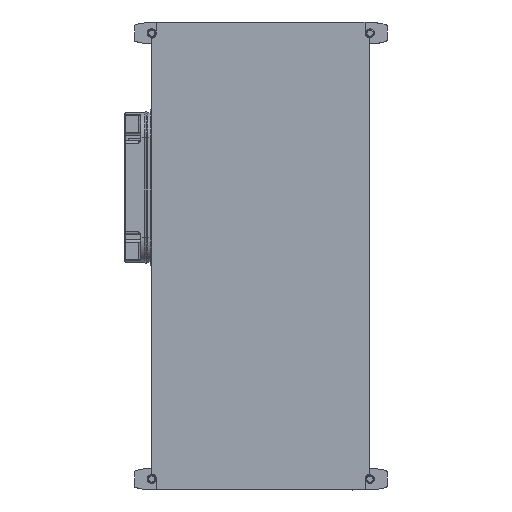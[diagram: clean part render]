
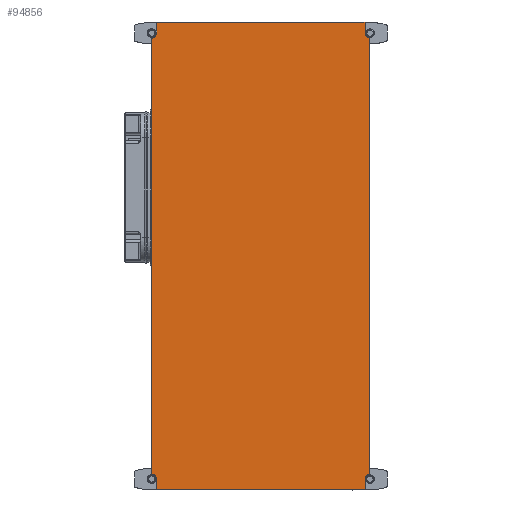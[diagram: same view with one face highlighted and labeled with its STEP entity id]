
A CAD part, front view. The second image highlights one B-rep face of the part: STEP entity #94856.
In plain terms, the highlighted planar face has unit normal (0, -1, 0).
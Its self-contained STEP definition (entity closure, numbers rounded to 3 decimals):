
#2545 = CIRCLE ( 'NONE', #131803, 1.6 ) ;
#5871 = EDGE_CURVE ( 'NONE', #168819, #114018, #17743, .T. ) ;
#6618 = CARTESIAN_POINT ( 'NONE',  ( -35., -14.1, 71.5 ) ) ;
#7914 = VERTEX_POINT ( 'NONE', #204844 ) ;
#9610 = ORIENTED_EDGE ( 'NONE', *, *, #5871, .T. ) ;
#9773 = CARTESIAN_POINT ( 'NONE',  ( -33.4, -14.1, -75. ) ) ;
#9861 = CARTESIAN_POINT ( 'NONE',  ( 0., -14.1, 0. ) ) ;
#14695 = CARTESIAN_POINT ( 'NONE',  ( -35., -14.1, 69.9 ) ) ;
#14861 = VERTEX_POINT ( 'NONE', #232908 ) ;
#17743 = LINE ( 'NONE', #46378, #218563 ) ;
#24274 = ORIENTED_EDGE ( 'NONE', *, *, #55468, .F. ) ;
#26111 = DIRECTION ( 'NONE',  ( 0., 0., -1. ) ) ;
#26144 = ORIENTED_EDGE ( 'NONE', *, *, #67791, .F. ) ;
#26189 = VECTOR ( 'NONE', #81049, 1000. ) ;
#29390 = DIRECTION ( 'NONE',  ( 0., 0., -1. ) ) ;
#32397 = LINE ( 'NONE', #62430, #26189 ) ;
#33100 = CARTESIAN_POINT ( 'NONE',  ( 33.4, -14.1, 71.5 ) ) ;
#38405 = EDGE_CURVE ( 'NONE', #236429, #97996, #2545, .T. ) ;
#40124 = EDGE_CURVE ( 'NONE', #114865, #236429, #89949, .T. ) ;
#43440 = EDGE_LOOP ( 'NONE', ( #180875, #119392, #88386, #113891, #154037, #76017, #222411, #26144, #9610, #197074, #24274, #83307 ) ) ;
#43470 = CARTESIAN_POINT ( 'NONE',  ( -33.4, -14.1, 75. ) ) ;
#46378 = CARTESIAN_POINT ( 'NONE',  ( -35., -14.1, 75. ) ) ;
#48196 = PLANE ( 'NONE',  #198457 ) ;
#53482 = CARTESIAN_POINT ( 'NONE',  ( 35., -14.1, 69.9 ) ) ;
#55468 = EDGE_CURVE ( 'NONE', #213233, #181031, #107900, .T. ) ;
#56161 = VECTOR ( 'NONE', #236203, 1000. ) ;
#60625 = CARTESIAN_POINT ( 'NONE',  ( -35., -14.1, 75. ) ) ;
#60873 = CARTESIAN_POINT ( 'NONE',  ( 35., -14.1, 71.5 ) ) ;
#62430 = CARTESIAN_POINT ( 'NONE',  ( -35., -14.1, -75. ) ) ;
#63154 = DIRECTION ( 'NONE',  ( 0., -1., 0. ) ) ;
#65908 = DIRECTION ( 'NONE',  ( 0., 0., -1. ) ) ;
#67791 = EDGE_CURVE ( 'NONE', #168819, #121066, #157484, .T. ) ;
#76017 = ORIENTED_EDGE ( 'NONE', *, *, #124410, .F. ) ;
#80069 = DIRECTION ( 'NONE',  ( 1., 0., 0. ) ) ;
#80321 = DIRECTION ( 'NONE',  ( 0., 0., -1. ) ) ;
#81049 = DIRECTION ( 'NONE',  ( 1., 0., 0. ) ) ;
#83307 = ORIENTED_EDGE ( 'NONE', *, *, #175264, .T. ) ;
#84003 = VERTEX_POINT ( 'NONE', #43470 ) ;
#88386 = ORIENTED_EDGE ( 'NONE', *, *, #40124, .F. ) ;
#89949 = LINE ( 'NONE', #246407, #135585 ) ;
#94856 = ADVANCED_FACE ( 'NONE', ( #157186 ), #48196, .T. ) ;
#96414 = CARTESIAN_POINT ( 'NONE',  ( 35., -14.1, -71.5 ) ) ;
#97996 = VERTEX_POINT ( 'NONE', #141174 ) ;
#104703 = AXIS2_PLACEMENT_3D ( 'NONE', #6618, #142734, #26111 ) ;
#107900 = LINE ( 'NONE', #196990, #56161 ) ;
#110178 = CARTESIAN_POINT ( 'NONE',  ( -33.4, -14.1, -71.5 ) ) ;
#113822 = EDGE_CURVE ( 'NONE', #155819, #14861, #222714, .T. ) ;
#113891 = ORIENTED_EDGE ( 'NONE', *, *, #245607, .F. ) ;
#114018 = VERTEX_POINT ( 'NONE', #118858 ) ;
#114865 = VERTEX_POINT ( 'NONE', #53482 ) ;
#116052 = DIRECTION ( 'NONE',  ( 0., 0., -1. ) ) ;
#116841 = CARTESIAN_POINT ( 'NONE',  ( 35., -14.1, -69.9 ) ) ;
#118858 = CARTESIAN_POINT ( 'NONE',  ( -35., -14.1, -69.9 ) ) ;
#119375 = VECTOR ( 'NONE', #169859, 1000. ) ;
#119392 = ORIENTED_EDGE ( 'NONE', *, *, #38405, .F. ) ;
#120615 = CARTESIAN_POINT ( 'NONE',  ( 33.4, -14.1, 75. ) ) ;
#121066 = VERTEX_POINT ( 'NONE', #185405 ) ;
#124248 = VECTOR ( 'NONE', #80069, 1000. ) ;
#124410 = EDGE_CURVE ( 'NONE', #84003, #155819, #227589, .T. ) ;
#125140 = VECTOR ( 'NONE', #141034, 1000. ) ;
#128230 = AXIS2_PLACEMENT_3D ( 'NONE', #179428, #63154, #198958 ) ;
#129073 = DIRECTION ( 'NONE',  ( 0., 0., 1. ) ) ;
#129973 = EDGE_CURVE ( 'NONE', #97996, #7914, #176663, .T. ) ;
#131803 = AXIS2_PLACEMENT_3D ( 'NONE', #96414, #232397, #116052 ) ;
#135585 = VECTOR ( 'NONE', #207306, 1000. ) ;
#141034 = DIRECTION ( 'NONE',  ( 0., 0., -1. ) ) ;
#141174 = CARTESIAN_POINT ( 'NONE',  ( 33.4, -14.1, -71.5 ) ) ;
#142734 = DIRECTION ( 'NONE',  ( 0., -1., 0. ) ) ;
#145986 = DIRECTION ( 'NONE',  ( 0., -1., 0. ) ) ;
#151368 = VECTOR ( 'NONE', #129073, 1000. ) ;
#154037 = ORIENTED_EDGE ( 'NONE', *, *, #113822, .F. ) ;
#155819 = VERTEX_POINT ( 'NONE', #120615 ) ;
#157186 = FACE_OUTER_BOUND ( 'NONE', #43440, .T. ) ;
#157484 = CIRCLE ( 'NONE', #104703, 1.6 ) ;
#166160 = AXIS2_PLACEMENT_3D ( 'NONE', #60873, #196744, #80321 ) ;
#168819 = VERTEX_POINT ( 'NONE', #14695 ) ;
#169859 = DIRECTION ( 'NONE',  ( 0., 0., -1. ) ) ;
#175264 = EDGE_CURVE ( 'NONE', #213233, #7914, #32397, .T. ) ;
#176663 = LINE ( 'NONE', #237840, #125140 ) ;
#179428 = CARTESIAN_POINT ( 'NONE',  ( -35., -14.1, -71.5 ) ) ;
#180875 = ORIENTED_EDGE ( 'NONE', *, *, #129973, .F. ) ;
#181031 = VERTEX_POINT ( 'NONE', #110178 ) ;
#185405 = CARTESIAN_POINT ( 'NONE',  ( -33.4, -14.1, 71.5 ) ) ;
#196054 = EDGE_CURVE ( 'NONE', #121066, #84003, #202929, .T. ) ;
#196403 = CIRCLE ( 'NONE', #128230, 1.6 ) ;
#196744 = DIRECTION ( 'NONE',  ( 0., -1., 0. ) ) ;
#196791 = EDGE_CURVE ( 'NONE', #181031, #114018, #196403, .T. ) ;
#196990 = CARTESIAN_POINT ( 'NONE',  ( -33.4, -14.1, -71.5 ) ) ;
#197074 = ORIENTED_EDGE ( 'NONE', *, *, #196791, .F. ) ;
#198457 = AXIS2_PLACEMENT_3D ( 'NONE', #9861, #145986, #29390 ) ;
#198958 = DIRECTION ( 'NONE',  ( 0., 0., -1. ) ) ;
#202929 = LINE ( 'NONE', #206316, #151368 ) ;
#204844 = CARTESIAN_POINT ( 'NONE',  ( 33.4, -14.1, -75. ) ) ;
#206316 = CARTESIAN_POINT ( 'NONE',  ( -33.4, -14.1, 71.5 ) ) ;
#207306 = DIRECTION ( 'NONE',  ( 0., 0., -1. ) ) ;
#213233 = VERTEX_POINT ( 'NONE', #9773 ) ;
#213792 = CIRCLE ( 'NONE', #166160, 1.6 ) ;
#218563 = VECTOR ( 'NONE', #65908, 1000. ) ;
#222411 = ORIENTED_EDGE ( 'NONE', *, *, #196054, .F. ) ;
#222714 = LINE ( 'NONE', #33100, #119375 ) ;
#227589 = LINE ( 'NONE', #60625, #124248 ) ;
#232397 = DIRECTION ( 'NONE',  ( 0., -1., 0. ) ) ;
#232908 = CARTESIAN_POINT ( 'NONE',  ( 33.4, -14.1, 71.5 ) ) ;
#236203 = DIRECTION ( 'NONE',  ( 0., 0., 1. ) ) ;
#236429 = VERTEX_POINT ( 'NONE', #116841 ) ;
#237840 = CARTESIAN_POINT ( 'NONE',  ( 33.4, -14.1, -71.5 ) ) ;
#245607 = EDGE_CURVE ( 'NONE', #14861, #114865, #213792, .T. ) ;
#246407 = CARTESIAN_POINT ( 'NONE',  ( 35., -14.1, 75. ) ) ;
